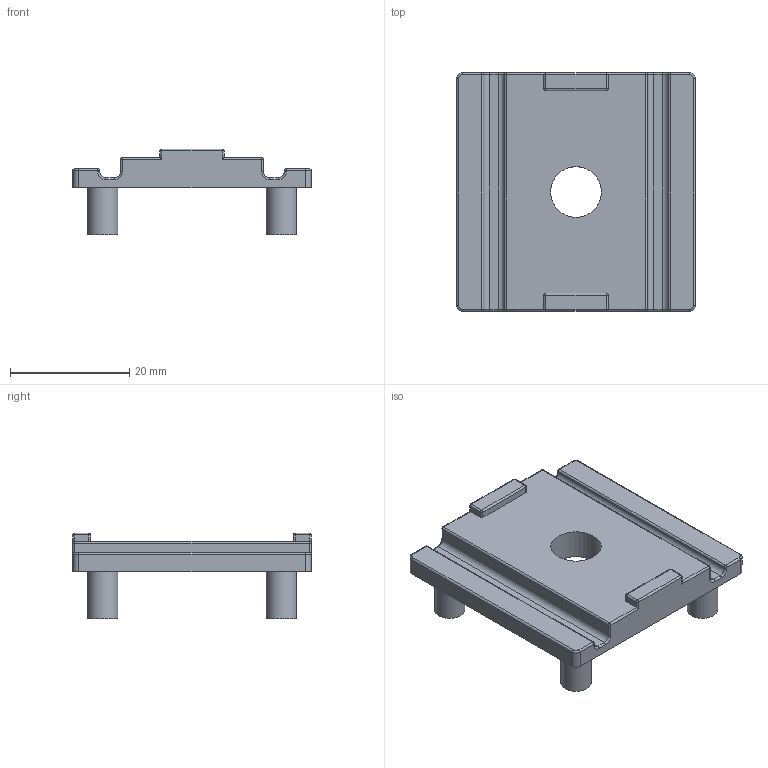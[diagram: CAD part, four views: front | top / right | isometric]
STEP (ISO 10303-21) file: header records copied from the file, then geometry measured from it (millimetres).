
FILE_DESCRIPTION(/* description */ ('END CAP 40x40 WITH GUIDE RAIL SERIE 140'),/* implementation_level */ '2;1');
FILE_NAME(/* name */ '\\carryline.intra\privat\users\mathias\Desktop\Tillfälliga filer\100-2017.stp',/* time_stamp */ '2018-11-20T10:39:15+01:00',/* author */ ('MD'),/* organization */ ('CARRYLINE'),/* preprocessor_version */ 'ST-DEVELOPER v17',/* originating_system */ 'Autodesk Inventor 2018',/* authorisation */ '');
FILE_SCHEMA (('AUTOMOTIVE_DESIGN { 1 0 10303 214 3 1 1 }'));
Length unit declared in the file: millimetre
Products named in the file (1): 100-2017
Bounding box: 40 x 40 x 14.4 mm (x, y, z)
Volume: 6995.2 mm3; surface area: 4657.4 mm2
Topology: 1 solids, 1 shells, 109 faces, 250 edges, 131 vertices
Faces by surface type: cylinder 55, plane 26, sphere 16, torus 12
Full cylindrical faces by diameter (mm): 5.1 x4, 8.5 x1
Entity records: 2950 total; most frequent: DIRECTION 573, CARTESIAN_POINT 475, ORIENTED_EDGE 468, EDGE_CURVE 234, AXIS2_PLACEMENT_3D 229, VERTEX_POINT 131, LINE 115, VECTOR 115
